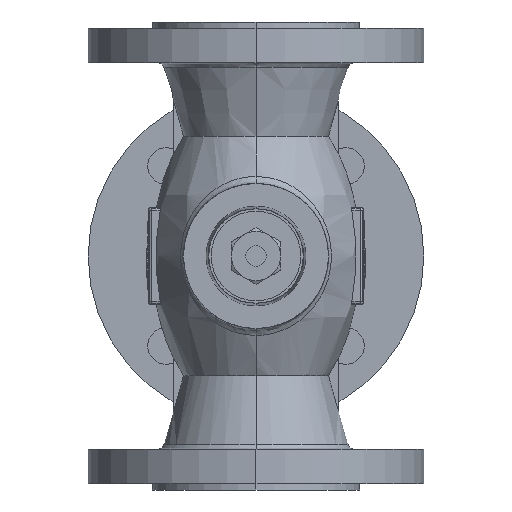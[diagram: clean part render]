
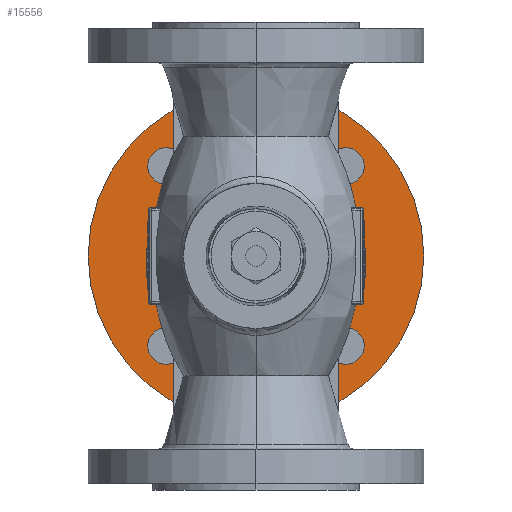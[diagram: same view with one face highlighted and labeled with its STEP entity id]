
A CAD part, front view. The second image highlights one B-rep face of the part: STEP entity #15556.
In plain terms, the highlighted planar face has unit normal (0, -1, 0).
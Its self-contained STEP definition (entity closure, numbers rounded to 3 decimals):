
#15410=CARTESIAN_POINT('',(0.0,54.261,197.5));
#15411=VERTEX_POINT('',#15410);
#15420=CARTESIAN_POINT('',(0.,54.261,32.5));
#15421=VERTEX_POINT('',#15420);
#15422=CARTESIAN_POINT('',(0.0,54.261,115.));
#15423=DIRECTION('',(0.0,-1.0,0.0));
#15424=DIRECTION('',(0.0,0.0,1.0));
#15425=AXIS2_PLACEMENT_3D('',#15422,#15423,#15424);
#15426=CIRCLE('',#15425,82.5);
#15427=EDGE_CURVE('',#15421,#15411,#15426,.T.);
#15537=CARTESIAN_POINT('',(0.0,54.261,115.));
#15538=DIRECTION('',(0.0,-1.0,0.0));
#15539=DIRECTION('',(0.0,0.0,1.0));
#15540=AXIS2_PLACEMENT_3D('',#15537,#15538,#15539);
#15541=CIRCLE('',#15540,82.5);
#15542=EDGE_CURVE('',#15411,#15421,#15541,.T.);
#15547=CARTESIAN_POINT('',(0.0,54.261,115.));
#15548=DIRECTION('',(0.0,-1.0,0.0));
#15549=DIRECTION('',(0.0,0.0,-1.0));
#15550=AXIS2_PLACEMENT_3D('',#15547,#15548,#15549);
#15551=PLANE('',#15550);
#15552=ORIENTED_EDGE('',*,*,#15542,.T.);
#15553=ORIENTED_EDGE('',*,*,#15427,.T.);
#15554=EDGE_LOOP('',(#15552,#15553));
#15555=FACE_OUTER_BOUND('',#15554,.T.);
#15556=ADVANCED_FACE('',(#15555),#15551,.T.);
